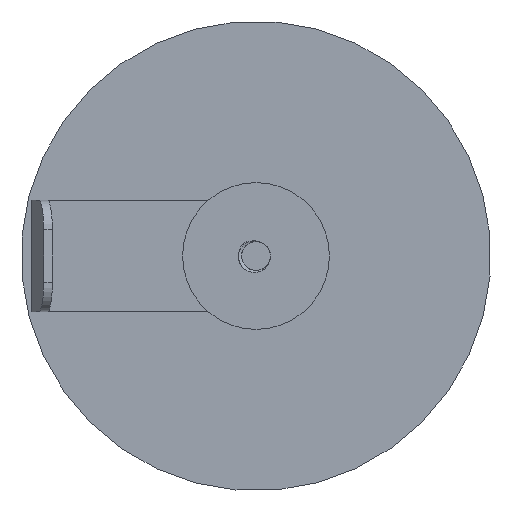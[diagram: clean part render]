
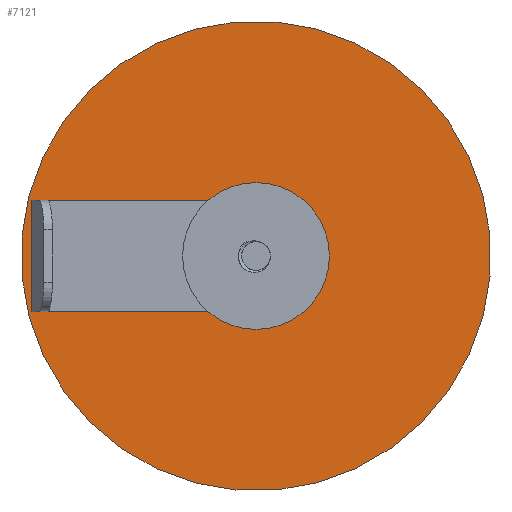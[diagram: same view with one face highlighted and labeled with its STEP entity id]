
A CAD part, front view. The second image highlights one B-rep face of the part: STEP entity #7121.
In plain terms, the highlighted planar face has unit normal (0, -1, 0) as drawn and (0, 0, 1) by its records, which use the part's own axes.
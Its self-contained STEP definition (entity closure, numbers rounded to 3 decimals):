
#268 = VERTEX_POINT ( 'NONE', #1281 ) ;
#284 = AXIS2_PLACEMENT_3D ( 'NONE', #1150, #2883, #5563 ) ;
#1045 = PLANE ( 'NONE',  #284 ) ;
#1150 = CARTESIAN_POINT ( 'NONE',  ( 0., 0., 0. ) ) ;
#1281 = CARTESIAN_POINT ( 'NONE',  ( 40., 0., 0. ) ) ;
#1397 = CARTESIAN_POINT ( 'NONE',  ( 0., 0., 0. ) ) ;
#1508 = DIRECTION ( 'NONE',  ( 0., 0., 1. ) ) ;
#2883 = DIRECTION ( 'NONE',  ( 0., 0., 1. ) ) ;
#3284 = DIRECTION ( 'NONE',  ( 0., 0., 1. ) ) ;
#3397 = CIRCLE ( 'NONE', #3586, 40. ) ;
#3586 = AXIS2_PLACEMENT_3D ( 'NONE', #1397, #3284, #4030 ) ;
#3657 = ORIENTED_EDGE ( 'NONE', *, *, #6965, .T. ) ;
#3737 = FACE_OUTER_BOUND ( 'NONE', #7669, .T. ) ;
#3972 = CARTESIAN_POINT ( 'NONE',  ( 0., 0., 0. ) ) ;
#4030 = DIRECTION ( 'NONE',  ( 1., 0., 0. ) ) ;
#4134 = CIRCLE ( 'NONE', #7060, 40. ) ;
#4298 = CARTESIAN_POINT ( 'NONE',  ( -40., 0., 0. ) ) ;
#4581 = VERTEX_POINT ( 'NONE', #4298 ) ;
#5563 = DIRECTION ( 'NONE',  ( 1., 0., 0. ) ) ;
#6965 = EDGE_CURVE ( 'NONE', #4581, #268, #3397, .T. ) ;
#7060 = AXIS2_PLACEMENT_3D ( 'NONE', #3972, #1508, #10111 ) ;
#7121 = ADVANCED_FACE ( 'NONE', ( #3737 ), #1045, .T. ) ;
#7669 = EDGE_LOOP ( 'NONE', ( #10262, #3657 ) ) ;
#10111 = DIRECTION ( 'NONE',  ( 1., 0., 0. ) ) ;
#10262 = ORIENTED_EDGE ( 'NONE', *, *, #11342, .T. ) ;
#11342 = EDGE_CURVE ( 'NONE', #268, #4581, #4134, .T. ) ;
